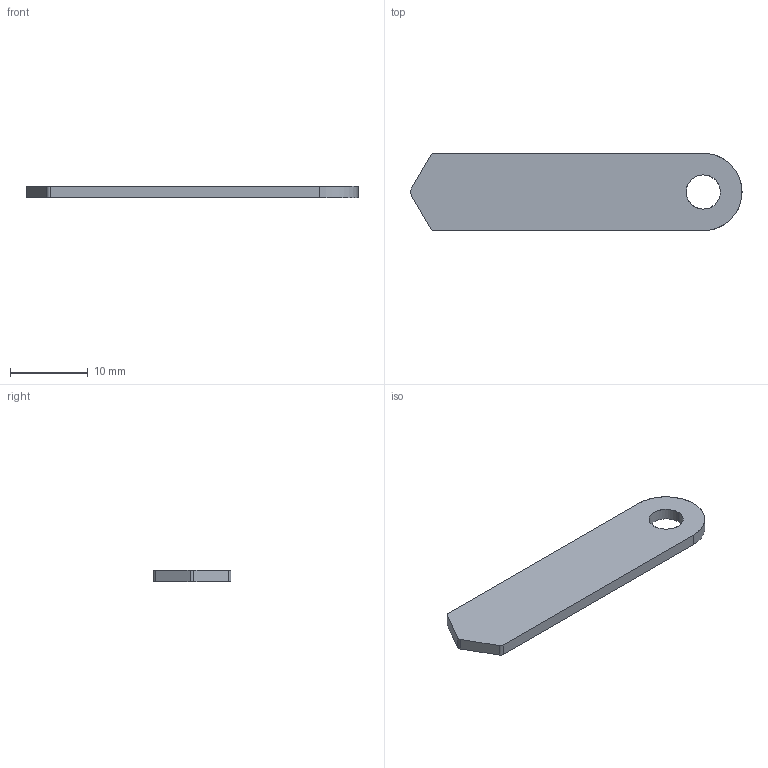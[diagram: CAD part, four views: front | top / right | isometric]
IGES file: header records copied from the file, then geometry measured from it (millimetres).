
Start section: START RECORD GO HERE.
Global section: file name: 20M_EL_09005  (chape brake light).igs; native system: IBM CATIA IGES - CATIA Version 5 Release 19 ; preprocessor: CATIA Version 5 Release 19 ; author: mik75; organization: LAPTOP-SUH344G9; date: 20200123.175518; units: millimetre
Bounding box: 42.81 x 10 x 1.5 mm (x, y, z)
Surface area: 943.3 mm2 (no closed solid volume)
Topology: 0 solids, 0 shells, 12 faces, 60 edges, 60 vertices
Faces by surface type: revolution 6, plane 6
